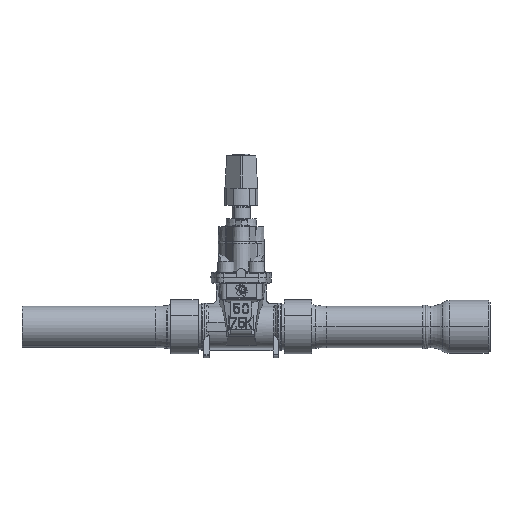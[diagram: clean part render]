
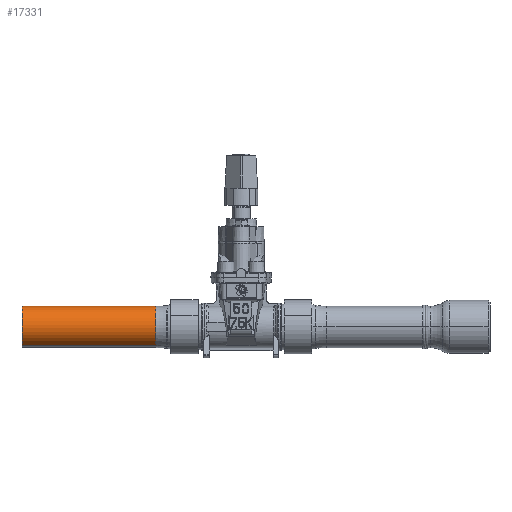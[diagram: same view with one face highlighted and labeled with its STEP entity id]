
A CAD part, top view. The second image highlights one B-rep face of the part: STEP entity #17331.
In plain terms, the highlighted cylindrical face has radius 31.5 mm (diameter 63 mm), a partial arc.
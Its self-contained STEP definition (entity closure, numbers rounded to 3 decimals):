
#16 = VERTEX_POINT ( 'NONE', #20929 ) ;
#259 = EDGE_CURVE ( 'NONE', #3742, #13728, #22283, .T. ) ;
#321 = DIRECTION ( 'NONE',  ( -1., 0., 0. ) ) ;
#596 = VECTOR ( 'NONE', #18981, 1000. ) ;
#1440 = CARTESIAN_POINT ( 'NONE',  ( -334.95, -28.332, 13.768 ) ) ;
#1665 = AXIS2_PLACEMENT_3D ( 'NONE', #9332, #16516, #2296 ) ;
#2296 = DIRECTION ( 'NONE',  ( 0., 0.899, -0.437 ) ) ;
#2996 = FACE_OUTER_BOUND ( 'NONE', #10989, .T. ) ;
#3443 = ORIENTED_EDGE ( 'NONE', *, *, #15865, .T. ) ;
#3742 = VERTEX_POINT ( 'NONE', #1440 ) ;
#4721 = AXIS2_PLACEMENT_3D ( 'NONE', #21084, #13464, #13685 ) ;
#5139 = AXIS2_PLACEMENT_3D ( 'NONE', #15543, #6480, #8588 ) ;
#5577 = VERTEX_POINT ( 'NONE', #16767 ) ;
#6480 = DIRECTION ( 'NONE',  ( -1., 0., 0. ) ) ;
#8588 = DIRECTION ( 'NONE',  ( 0., 0.899, -0.437 ) ) ;
#9093 = LINE ( 'NONE', #16073, #12943 ) ;
#9332 = CARTESIAN_POINT ( 'NONE',  ( -334.95, 0., 0. ) ) ;
#10173 = LINE ( 'NONE', #13702, #596 ) ;
#10208 = ORIENTED_EDGE ( 'NONE', *, *, #259, .F. ) ;
#10989 = EDGE_LOOP ( 'NONE', ( #20699, #3443, #14641, #10208 ) ) ;
#12087 = EDGE_CURVE ( 'NONE', #5577, #13728, #9093, .T. ) ;
#12943 = VECTOR ( 'NONE', #321, 1000. ) ;
#13046 = EDGE_CURVE ( 'NONE', #16, #3742, #10173, .T. ) ;
#13464 = DIRECTION ( 'NONE',  ( -1., 0., 0. ) ) ;
#13685 = DIRECTION ( 'NONE',  ( 0., 0.899, -0.437 ) ) ;
#13702 = CARTESIAN_POINT ( 'NONE',  ( -1197.95, -28.332, 13.768 ) ) ;
#13728 = VERTEX_POINT ( 'NONE', #18073 ) ;
#14641 = ORIENTED_EDGE ( 'NONE', *, *, #12087, .T. ) ;
#14827 = CIRCLE ( 'NONE', #4721, 31.5 ) ;
#15543 = CARTESIAN_POINT ( 'NONE',  ( -1197.95, 0., 0. ) ) ;
#15865 = EDGE_CURVE ( 'NONE', #16, #5577, #14827, .T. ) ;
#16073 = CARTESIAN_POINT ( 'NONE',  ( -1197.95, 28.332, -13.768 ) ) ;
#16516 = DIRECTION ( 'NONE',  ( -1., 0., 0. ) ) ;
#16767 = CARTESIAN_POINT ( 'NONE',  ( -130.876, 28.332, -13.768 ) ) ;
#17331 = ADVANCED_FACE ( 'NONE', ( #2996 ), #20953, .T. ) ;
#18073 = CARTESIAN_POINT ( 'NONE',  ( -334.95, 28.332, -13.768 ) ) ;
#18981 = DIRECTION ( 'NONE',  ( -1., 0., 0. ) ) ;
#20699 = ORIENTED_EDGE ( 'NONE', *, *, #13046, .F. ) ;
#20929 = CARTESIAN_POINT ( 'NONE',  ( -130.876, -28.332, 13.768 ) ) ;
#20953 = CYLINDRICAL_SURFACE ( 'NONE', #5139, 31.5 ) ;
#21084 = CARTESIAN_POINT ( 'NONE',  ( -130.876, 0., 0. ) ) ;
#22283 = CIRCLE ( 'NONE', #1665, 31.5 ) ;
